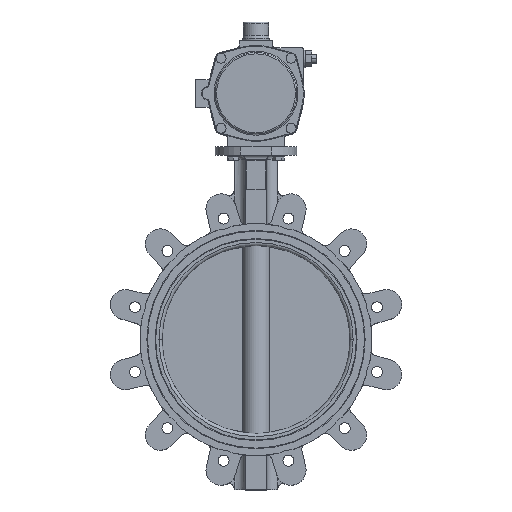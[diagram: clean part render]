
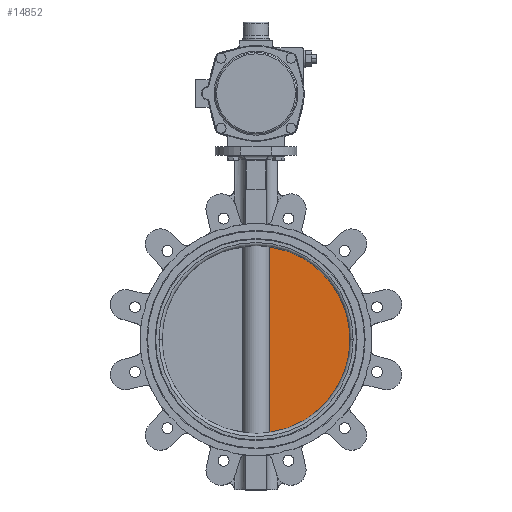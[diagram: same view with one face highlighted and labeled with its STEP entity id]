
A CAD part, top view. The second image highlights one B-rep face of the part: STEP entity #14852.
In plain terms, the highlighted planar face has unit normal (0, 0, 1).
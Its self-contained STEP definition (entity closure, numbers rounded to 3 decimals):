
#171 = DIRECTION ( 'NONE',  ( -1., 0., 0. ) ) ;
#515 = LINE ( 'NONE', #10185, #9657 ) ;
#1486 = CARTESIAN_POINT ( 'NONE',  ( 0., 0., 6. ) ) ;
#2168 = AXIS2_PLACEMENT_3D ( 'NONE', #4429, #18150, #21778 ) ;
#2570 = DIRECTION ( 'NONE',  ( 0., -1., 0. ) ) ;
#4429 = CARTESIAN_POINT ( 'NONE',  ( 21.166, 338.001, 6. ) ) ;
#5036 = AXIS2_PLACEMENT_3D ( 'NONE', #1486, #16705, #171 ) ;
#6030 = CIRCLE ( 'NONE', #9121, 150. ) ;
#6408 = EDGE_CURVE ( 'NONE', #20592, #21881, #6030, .T. ) ;
#8994 = DIRECTION ( 'NONE',  ( -1., 0., 0. ) ) ;
#9113 = DIRECTION ( 'NONE',  ( 0., 0., -1. ) ) ;
#9121 = AXIS2_PLACEMENT_3D ( 'NONE', #9473, #9113, #8994 ) ;
#9309 = EDGE_CURVE ( 'NONE', #12320, #20592, #12032, .T. ) ;
#9473 = CARTESIAN_POINT ( 'NONE',  ( 0., 0., 6. ) ) ;
#9657 = VECTOR ( 'NONE', #2570, 1000. ) ;
#10185 = CARTESIAN_POINT ( 'NONE',  ( 21.166, 338.001, 6. ) ) ;
#10245 = ORIENTED_EDGE ( 'NONE', *, *, #19103, .T. ) ;
#11296 = EDGE_LOOP ( 'NONE', ( #23638, #10245, #15112 ) ) ;
#12032 = CIRCLE ( 'NONE', #5036, 150. ) ;
#12320 = VERTEX_POINT ( 'NONE', #13144 ) ;
#13144 = CARTESIAN_POINT ( 'NONE',  ( 21.166, 148.499, 6. ) ) ;
#14852 = ADVANCED_FACE ( 'NONE', ( #15760 ), #23203, .F. ) ;
#15112 = ORIENTED_EDGE ( 'NONE', *, *, #6408, .F. ) ;
#15760 = FACE_OUTER_BOUND ( 'NONE', #11296, .T. ) ;
#16629 = CARTESIAN_POINT ( 'NONE',  ( 150., 0., 6. ) ) ;
#16705 = DIRECTION ( 'NONE',  ( 0., 0., -1. ) ) ;
#17413 = CARTESIAN_POINT ( 'NONE',  ( 21.166, -148.499, 6. ) ) ;
#18150 = DIRECTION ( 'NONE',  ( 0., 0., -1. ) ) ;
#19103 = EDGE_CURVE ( 'NONE', #12320, #21881, #515, .T. ) ;
#20592 = VERTEX_POINT ( 'NONE', #16629 ) ;
#21778 = DIRECTION ( 'NONE',  ( -1., 0., 0. ) ) ;
#21881 = VERTEX_POINT ( 'NONE', #17413 ) ;
#23203 = PLANE ( 'NONE',  #2168 ) ;
#23638 = ORIENTED_EDGE ( 'NONE', *, *, #9309, .F. ) ;
